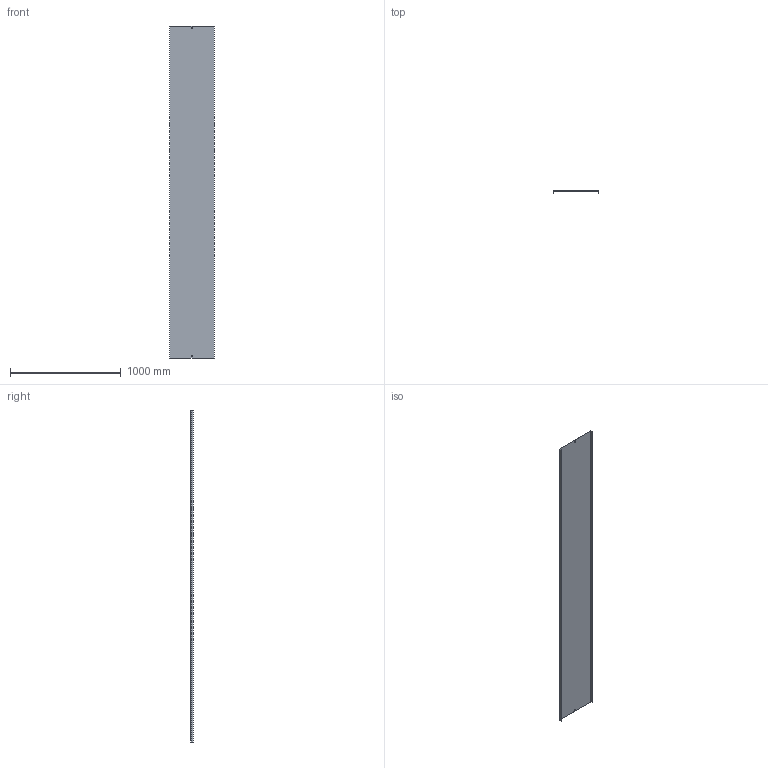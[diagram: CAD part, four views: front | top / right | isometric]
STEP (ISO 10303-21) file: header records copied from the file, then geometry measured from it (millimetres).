
FILE_DESCRIPTION (( 'STEP AP214' ), '1' );
FILE_NAME ('05N3R400.step', '2025-02-21T12:39:14', ( '' ), ( '' ), 'SwSTEP 2.0', 'SolidWorks 2023', '' );
FILE_SCHEMA (( 'AUTOMOTIVE_DESIGN' ));
Length unit declared in the file: millimetre
Products named in the file (1): 05N3R400
Bounding box: 403 x 20 x 3000 mm (x, y, z)
Volume: 1979824.5 mm3; surface area: 2650179 mm2
Topology: 1 solids, 1 shells, 18 faces, 48 edges, 32 vertices
Faces by surface type: plane 18
Entity records: 583 total; most frequent: CARTESIAN_POINT 99, ORIENTED_EDGE 96, DIRECTION 86, EDGE_CURVE 48, VECTOR 48, LINE 48, VERTEX_POINT 32, EDGE_LOOP 22
